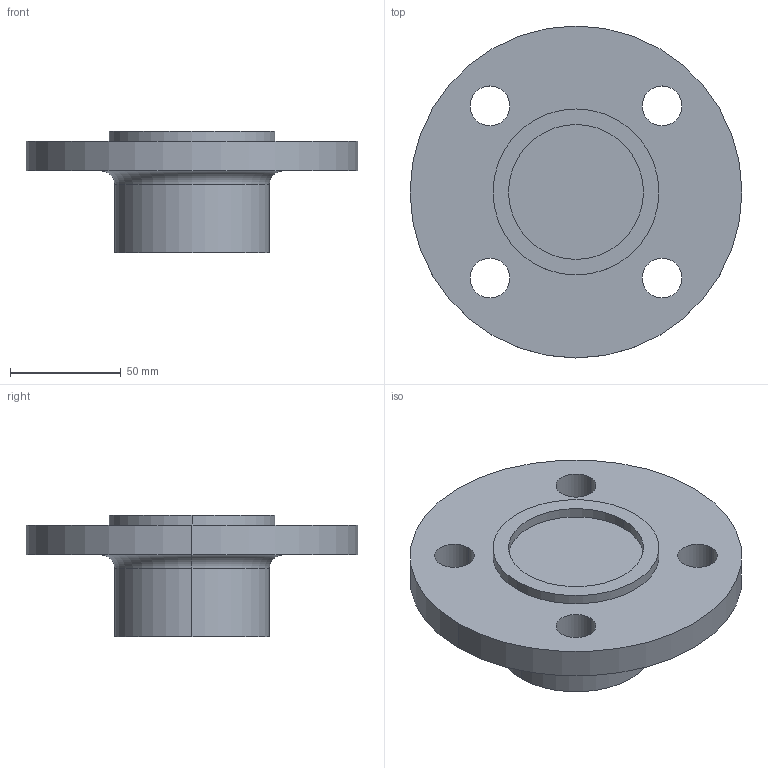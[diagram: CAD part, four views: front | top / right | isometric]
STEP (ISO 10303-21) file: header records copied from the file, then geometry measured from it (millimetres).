
FILE_DESCRIPTION (( 'STEP AP214' ), '1' );
FILE_NAME ('PN40 DN40 Type 21(i) - Type C Face.STEP', '2018-12-30T01:32:29', ( '' ), ( '' ), 'SwSTEP 2.0', 'SolidWorks 2019', '' );
FILE_SCHEMA (( 'AUTOMOTIVE_DESIGN' ));
Length unit declared in the file: millimetre
Products named in the file (1): PN40 DN40 Type 21(i) - Type C Face
Bounding box: 150 x 150 x 55 mm (x, y, z)
Volume: 375709.4 mm3; surface area: 52231.6 mm2
Topology: 1 solids, 1 shells, 23 faces, 52 edges, 34 vertices
Faces by surface type: cylinder 16, plane 5, torus 2
Entity records: 716 total; most frequent: DIRECTION 136, CARTESIAN_POINT 110, ORIENTED_EDGE 104, AXIS2_PLACEMENT_3D 60, EDGE_CURVE 52, CIRCLE 36, EDGE_LOOP 34, VERTEX_POINT 34
